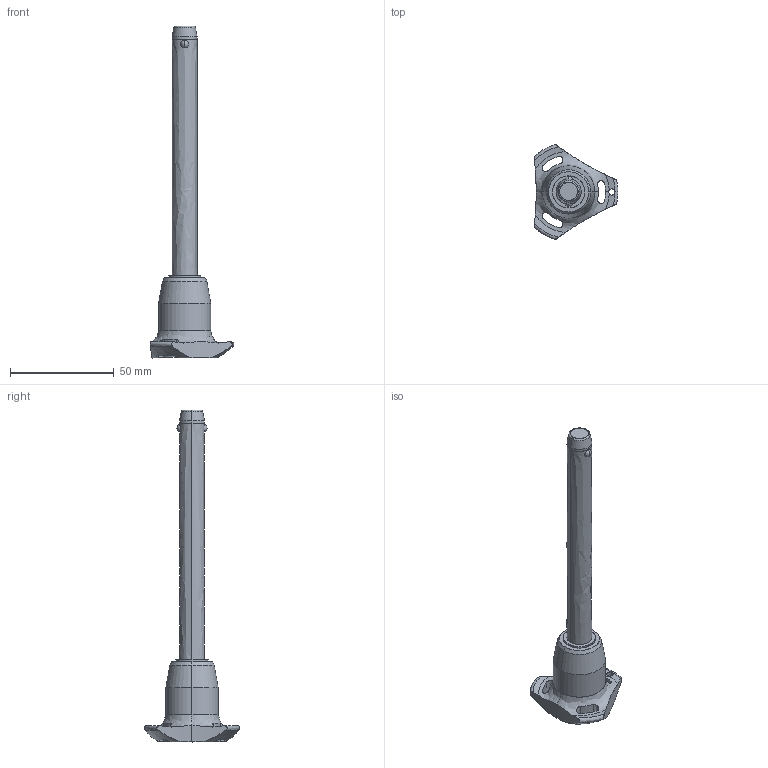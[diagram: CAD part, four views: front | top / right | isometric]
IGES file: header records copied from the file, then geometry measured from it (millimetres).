
Start section: SolidWorks IGES file using analytic representation for surfaces
Global section: file name: C:\Users\ianosborn\Desktop\QR1716_v2\QR1716_v2_20251114_IGES\QR1716.M12-110-T.igs; native system: SolidWorks 2019; preprocessor: SolidWorks 2019; author: IanOsborn; date: 251113.103813; units: millimetre
Bounding box: 40.5 x 45.88 x 160.3 mm (x, y, z)
Surface area: 10420.2 mm2 (no closed solid volume)
Topology: 0 solids, 0 shells, 68 faces, 1386 edges, 1382 vertices
Faces by surface type: revolution 52, bspline 16
